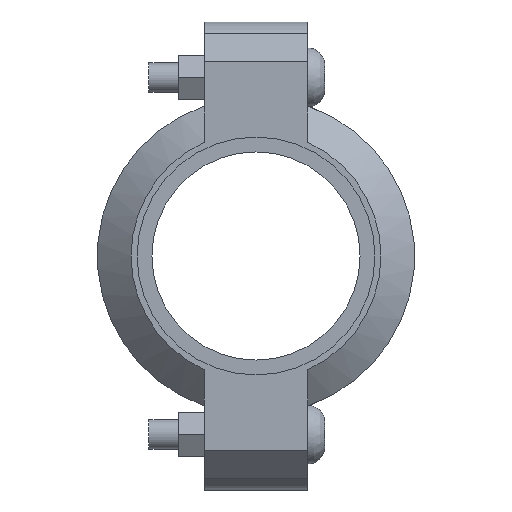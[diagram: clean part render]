
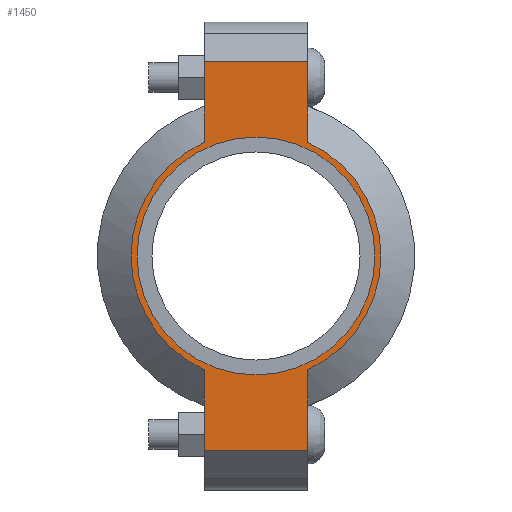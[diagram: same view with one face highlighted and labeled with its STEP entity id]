
A CAD part, left-side view. The second image highlights one B-rep face of the part: STEP entity #1450.
In plain terms, the highlighted planar face has unit normal (-1, 0, 0) as drawn and (0, 0, 1) by its records, which use the part's own axes.
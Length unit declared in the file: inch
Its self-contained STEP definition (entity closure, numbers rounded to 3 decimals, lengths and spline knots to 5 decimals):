
#112=LINE('',#2529,#205);
#125=LINE('',#2573,#218);
#130=LINE('',#2597,#223);
#137=LINE('',#2615,#230);
#144=LINE('',#2640,#237);
#145=LINE('',#2643,#238);
#205=VECTOR('',#2029,0.3937);
#218=VECTOR('',#2058,0.3937);
#223=VECTOR('',#2069,0.3937);
#230=VECTOR('',#2086,0.3937);
#237=VECTOR('',#2107,0.3937);
#238=VECTOR('',#2112,0.3937);
#286=FACE_BOUND('',#446,.T.);
#351=FACE_OUTER_BOUND('',#445,.T.);
#445=EDGE_LOOP('',(#1199,#1200,#1201,#1202,#1203,#1204,#1205,#1206));
#446=EDGE_LOOP('',(#1207));
#542=CIRCLE('',#1713,1.575);
#543=CIRCLE('',#1714,1.575);
#544=CIRCLE('',#1715,1.5);
#645=VERTEX_POINT('',#2524);
#646=VERTEX_POINT('',#2528);
#662=VERTEX_POINT('',#2570);
#663=VERTEX_POINT('',#2572);
#669=VERTEX_POINT('',#2592);
#670=VERTEX_POINT('',#2596);
#675=VERTEX_POINT('',#2612);
#676=VERTEX_POINT('',#2614);
#682=VERTEX_POINT('',#2645);
#812=EDGE_CURVE('',#646,#645,#112,.T.);
#832=EDGE_CURVE('',#663,#662,#125,.T.);
#841=EDGE_CURVE('',#670,#669,#130,.T.);
#850=EDGE_CURVE('',#676,#675,#137,.T.);
#862=EDGE_CURVE('',#670,#662,#144,.T.);
#863=EDGE_CURVE('',#669,#676,#542,.T.);
#864=EDGE_CURVE('',#646,#675,#145,.T.);
#865=EDGE_CURVE('',#645,#663,#543,.T.);
#866=EDGE_CURVE('',#682,#682,#544,.T.);
#1199=ORIENTED_EDGE('',*,*,#862,.F.);
#1200=ORIENTED_EDGE('',*,*,#841,.T.);
#1201=ORIENTED_EDGE('',*,*,#863,.T.);
#1202=ORIENTED_EDGE('',*,*,#850,.T.);
#1203=ORIENTED_EDGE('',*,*,#864,.F.);
#1204=ORIENTED_EDGE('',*,*,#812,.T.);
#1205=ORIENTED_EDGE('',*,*,#865,.T.);
#1206=ORIENTED_EDGE('',*,*,#832,.T.);
#1207=ORIENTED_EDGE('',*,*,#866,.T.);
#1303=PLANE('',#1712);
#1450=ADVANCED_FACE('',(#351,#286),#1303,.T.);
#1712=AXIS2_PLACEMENT_3D('',#2641,#2108,#2109);
#1713=AXIS2_PLACEMENT_3D('',#2642,#2110,#2111);
#1714=AXIS2_PLACEMENT_3D('',#2644,#2113,#2114);
#1715=AXIS2_PLACEMENT_3D('',#2646,#2115,#2116);
#2029=DIRECTION('',(1.,0.,0.));
#2058=DIRECTION('',(1.,0.,0.));
#2069=DIRECTION('',(-1.,0.,0.));
#2086=DIRECTION('',(-1.,0.,0.));
#2107=DIRECTION('',(0.,-1.,0.));
#2108=DIRECTION('center_axis',(0.,0.,1.));
#2109=DIRECTION('ref_axis',(-1.,0.,0.));
#2110=DIRECTION('center_axis',(0.,0.,1.));
#2111=DIRECTION('ref_axis',(1.,0.,0.));
#2112=DIRECTION('',(0.,1.,0.));
#2113=DIRECTION('center_axis',(0.,0.,1.));
#2114=DIRECTION('ref_axis',(1.,0.,0.));
#2115=DIRECTION('center_axis',(0.,0.,-1.));
#2116=DIRECTION('ref_axis',(1.,0.,0.));
#2524=CARTESIAN_POINT('',(-1.43462,-0.65,0.94));
#2528=CARTESIAN_POINT('',(-2.45,-0.65,0.94));
#2529=CARTESIAN_POINT('',(2.95,-0.65,0.94));
#2570=CARTESIAN_POINT('',(2.45,-0.65,0.94));
#2572=CARTESIAN_POINT('',(1.43462,-0.65,0.94));
#2573=CARTESIAN_POINT('',(2.95,-0.65,0.94));
#2592=CARTESIAN_POINT('',(1.43462,0.65,0.94));
#2596=CARTESIAN_POINT('',(2.45,0.65,0.94));
#2597=CARTESIAN_POINT('',(-2.95,0.65,0.94));
#2612=CARTESIAN_POINT('',(-2.45,0.65,0.94));
#2614=CARTESIAN_POINT('',(-1.43462,0.65,0.94));
#2615=CARTESIAN_POINT('',(-2.95,0.65,0.94));
#2640=CARTESIAN_POINT('',(2.45,-0.325,0.94));
#2641=CARTESIAN_POINT('Origin',(0.,0.,
0.94));
#2642=CARTESIAN_POINT('Origin',(0.,0.,0.94));
#2643=CARTESIAN_POINT('',(-2.45,0.325,0.94));
#2644=CARTESIAN_POINT('Origin',(0.,0.,0.94));
#2645=CARTESIAN_POINT('',(-1.5,0.,0.94));
#2646=CARTESIAN_POINT('Origin',(0.,0.,0.94));
